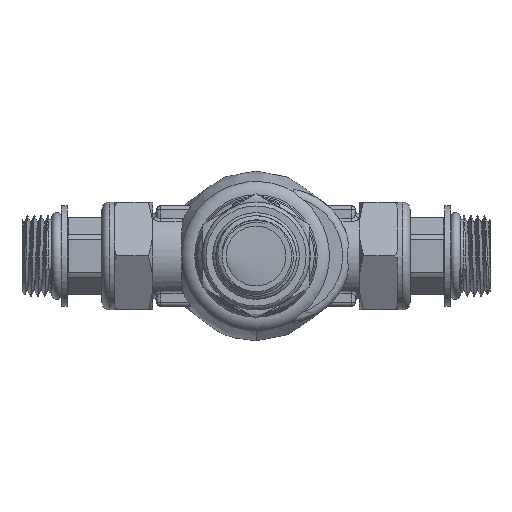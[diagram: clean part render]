
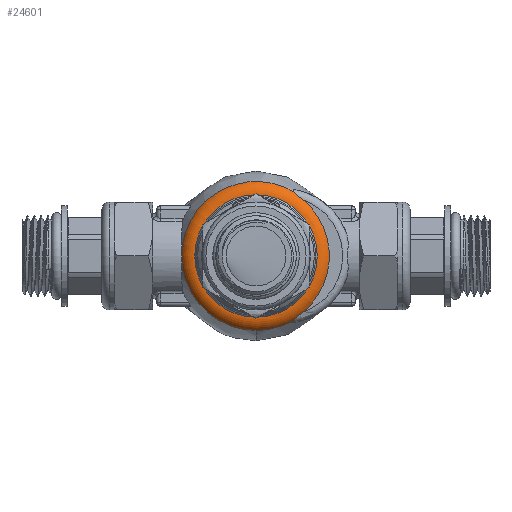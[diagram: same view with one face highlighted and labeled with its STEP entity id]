
A CAD part, front view. The second image highlights one B-rep face of the part: STEP entity #24601.
In plain terms, the highlighted toroidal (fillet/blend) face has major radius 15.9 mm and minor radius 3.86 mm.
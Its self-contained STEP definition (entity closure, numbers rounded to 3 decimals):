
#99=TOROIDAL_SURFACE('',#26145,15.9,3.86);
#1308=CIRCLE('',#24790,19.331);
#1313=CIRCLE('',#24795,19.331);
#1782=CIRCLE('',#25843,19.331);
#1956=CIRCLE('',#26144,19.023);
#1957=CIRCLE('',#26146,3.86);
#1958=CIRCLE('',#26147,15.9);
#1959=CIRCLE('',#26148,15.9);
#1960=CIRCLE('',#26149,15.9);
#3379=FACE_OUTER_BOUND('',#4863,.T.);
#4863=EDGE_LOOP('',(#22368,#22369,#22370,#22371,#22372,#22373,#22374,#22375,
#22376,#22377,#22378));
#6256=B_SPLINE_CURVE_WITH_KNOTS('',3,(#59519,#59520,#59521,#59522,#59523,
#59524,#59525,#59526),.UNSPECIFIED.,.F.,.F.,(4,2,2,4),(1.19,
1.213,1.4,1.443),.UNSPECIFIED.);
#6257=B_SPLINE_CURVE_WITH_KNOTS('',3,(#59529,#59530,#59531,#59532,#59533,
#59534,#59535,#59536),.UNSPECIFIED.,.F.,.F.,(4,2,2,4),(1.895,
1.933,2.262,2.69),.UNSPECIFIED.);
#9563=VERTEX_POINT('',#31754);
#9573=VERTEX_POINT('',#31854);
#9574=VERTEX_POINT('',#31867);
#9591=VERTEX_POINT('',#32075);
#11734=VERTEX_POINT('',#59518);
#11735=VERTEX_POINT('',#59527);
#11741=VERTEX_POINT('',#59658);
#11742=VERTEX_POINT('',#59660);
#11743=VERTEX_POINT('',#59662);
#12001=EDGE_CURVE('',#9574,#9573,#1308,.F.);
#12019=EDGE_CURVE('',#9591,#9563,#1313,.T.);
#14842=EDGE_CURVE('',#9563,#9573,#1782,.T.);
#15321=EDGE_CURVE('',#11734,#9574,#6256,.T.);
#15323=EDGE_CURVE('',#11735,#9591,#6257,.F.);
#15334=EDGE_CURVE('',#11735,#11734,#1956,.T.);
#15335=EDGE_CURVE('',#9563,#11741,#1957,.T.);
#15336=EDGE_CURVE('',#11741,#11742,#1958,.T.);
#15337=EDGE_CURVE('',#11742,#11743,#1959,.T.);
#15338=EDGE_CURVE('',#11743,#11741,#1960,.T.);
#22368=ORIENTED_EDGE('',*,*,#15334,.T.);
#22369=ORIENTED_EDGE('',*,*,#15321,.T.);
#22370=ORIENTED_EDGE('',*,*,#12001,.T.);
#22371=ORIENTED_EDGE('',*,*,#14842,.F.);
#22372=ORIENTED_EDGE('',*,*,#15335,.T.);
#22373=ORIENTED_EDGE('',*,*,#15336,.T.);
#22374=ORIENTED_EDGE('',*,*,#15337,.T.);
#22375=ORIENTED_EDGE('',*,*,#15338,.T.);
#22376=ORIENTED_EDGE('',*,*,#15335,.F.);
#22377=ORIENTED_EDGE('',*,*,#12019,.F.);
#22378=ORIENTED_EDGE('',*,*,#15323,.F.);
#24601=ADVANCED_FACE('',(#3379),#99,.T.);
#24790=AXIS2_PLACEMENT_3D('',#31868,#26483,#26484);
#24795=AXIS2_PLACEMENT_3D('',#32090,#26493,#26494);
#25843=AXIS2_PLACEMENT_3D('',#54408,#30000,#30001);
#26144=AXIS2_PLACEMENT_3D('',#59656,#30661,#30662);
#26145=AXIS2_PLACEMENT_3D('',#59657,#30663,#30664);
#26146=AXIS2_PLACEMENT_3D('',#59659,#30665,#30666);
#26147=AXIS2_PLACEMENT_3D('',#59661,#30667,#30668);
#26148=AXIS2_PLACEMENT_3D('',#59663,#30669,#30670);
#26149=AXIS2_PLACEMENT_3D('',#59664,#30671,#30672);
#26483=DIRECTION('center_axis',(0.,1.,0.));
#26484=DIRECTION('ref_axis',(0.,0.,1.));
#26493=DIRECTION('center_axis',(0.,1.,0.));
#26494=DIRECTION('ref_axis',(1.,0.,0.));
#30000=DIRECTION('center_axis',(0.,1.,0.));
#30001=DIRECTION('ref_axis',(1.,0.,0.));
#30661=DIRECTION('center_axis',(0.,-1.,0.));
#30662=DIRECTION('ref_axis',(0.,0.,1.));
#30663=DIRECTION('center_axis',(0.,1.,0.));
#30664=DIRECTION('ref_axis',(0.,0.,1.));
#30665=DIRECTION('center_axis',(-1.,0.,0.));
#30666=DIRECTION('ref_axis',(0.,0.,-1.));
#30667=DIRECTION('center_axis',(0.,1.,0.));
#30668=DIRECTION('ref_axis',(1.,0.,0.));
#30669=DIRECTION('center_axis',(0.,1.,0.));
#30670=DIRECTION('ref_axis',(1.,0.,0.));
#30671=DIRECTION('center_axis',(0.,1.,0.));
#30672=DIRECTION('ref_axis',(1.,0.,0.));
#31754=CARTESIAN_POINT('',(0.,-11.,-19.331));
#31854=CARTESIAN_POINT('',(-19.331,-11.,0.));
#31867=CARTESIAN_POINT('',(9.976,-11.,16.558));
#31868=CARTESIAN_POINT('Origin',(0.,-11.,0.));
#32075=CARTESIAN_POINT('',(9.976,-11.,-16.558));
#32090=CARTESIAN_POINT('Origin',(0.,-11.,0.));
#54408=CARTESIAN_POINT('Origin',(0.,-11.,0.));
#59518=CARTESIAN_POINT('',(12.186,-11.5,14.607));
#59519=CARTESIAN_POINT('Ctrl Pts',(12.186,-11.5,14.607));
#59520=CARTESIAN_POINT('Ctrl Pts',(12.104,-11.5,14.676));
#59521=CARTESIAN_POINT('Ctrl Pts',(12.023,-11.499,14.743));
#59522=CARTESIAN_POINT('Ctrl Pts',(11.304,-11.48,15.34));
#59523=CARTESIAN_POINT('Ctrl Pts',(10.72,-11.394,15.827));
#59524=CARTESIAN_POINT('Ctrl Pts',(10.185,-11.139,16.342));
#59525=CARTESIAN_POINT('Ctrl Pts',(10.079,-11.079,16.448));
#59526=CARTESIAN_POINT('Ctrl Pts',(9.976,-11.,16.558));
#59527=CARTESIAN_POINT('',(12.186,-11.5,-14.607));
#59529=CARTESIAN_POINT('Ctrl Pts',(9.976,-11.,-16.558));
#59530=CARTESIAN_POINT('Ctrl Pts',(10.003,-11.021,-16.529));
#59531=CARTESIAN_POINT('Ctrl Pts',(10.03,-11.04,-16.5));
#59532=CARTESIAN_POINT('Ctrl Pts',(10.304,-11.223,-16.218));
#59533=CARTESIAN_POINT('Ctrl Pts',(10.599,-11.322,-15.949));
#59534=CARTESIAN_POINT('Ctrl Pts',(11.262,-11.464,-15.372));
#59535=CARTESIAN_POINT('Ctrl Pts',(11.705,-11.5,-15.008));
#59536=CARTESIAN_POINT('Ctrl Pts',(12.186,-11.5,-14.607));
#59656=CARTESIAN_POINT('Origin',(0.,-11.5,0.));
#59657=CARTESIAN_POINT('Origin',(0.,-9.231,0.));
#59658=CARTESIAN_POINT('',(0.,-13.091,-15.9));
#59659=CARTESIAN_POINT('Origin',(0.,-9.231,
-15.9));
#59660=CARTESIAN_POINT('',(-15.9,-13.091,0.));
#59661=CARTESIAN_POINT('Origin',(0.,-13.091,0.));
#59662=CARTESIAN_POINT('',(15.9,-13.091,0.));
#59663=CARTESIAN_POINT('Origin',(0.,-13.091,0.));
#59664=CARTESIAN_POINT('Origin',(0.,-13.091,0.));
